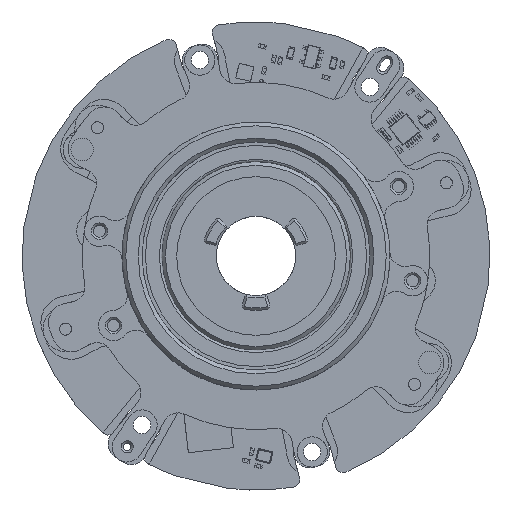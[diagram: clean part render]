
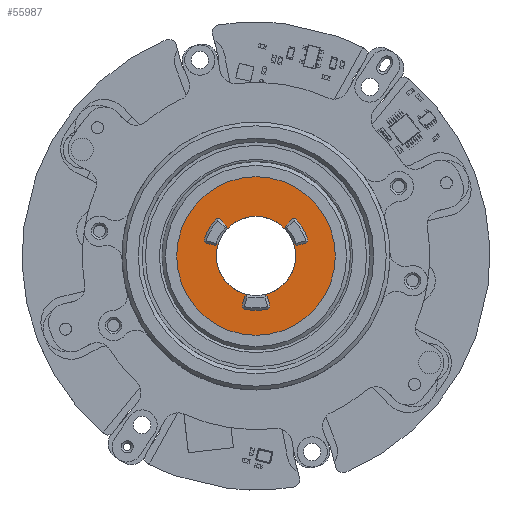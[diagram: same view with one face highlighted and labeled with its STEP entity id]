
A CAD part, left-side view. The second image highlights one B-rep face of the part: STEP entity #55987.
In plain terms, the highlighted planar face has unit normal (-1, 0, 0).
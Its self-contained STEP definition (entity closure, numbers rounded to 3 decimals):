
#14487=PLANE('',#140890);
#26861=LINE('',#191900,#41430);
#26863=LINE('',#191909,#41432);
#26870=LINE('',#191934,#41439);
#26873=LINE('',#191940,#41442);
#26875=LINE('',#191949,#41444);
#26879=LINE('',#191966,#41448);
#26883=LINE('',#191974,#41452);
#26886=LINE('',#191985,#41455);
#26892=LINE('',#192096,#41461);
#26895=LINE('',#192102,#41464);
#26897=LINE('',#192111,#41466);
#26902=LINE('',#192130,#41471);
#26905=LINE('',#192136,#41474);
#26908=LINE('',#192147,#41477);
#26911=LINE('',#192169,#41480);
#26915=LINE('',#192177,#41484);
#26918=LINE('',#192188,#41487);
#26923=LINE('',#192208,#41492);
#41430=VECTOR('',#152177,1.);
#41432=VECTOR('',#152181,1.);
#41439=VECTOR('',#152196,1.);
#41442=VECTOR('',#152201,1.);
#41444=VECTOR('',#152205,1.);
#41448=VECTOR('',#152217,1.);
#41452=VECTOR('',#152223,1.);
#41455=VECTOR('',#152228,1.);
#41461=VECTOR('',#152350,1.);
#41464=VECTOR('',#152355,1.);
#41466=VECTOR('',#152359,1.);
#41471=VECTOR('',#152372,1.);
#41474=VECTOR('',#152377,1.);
#41477=VECTOR('',#152382,1.);
#41480=VECTOR('',#152405,1.);
#41484=VECTOR('',#152411,1.);
#41487=VECTOR('',#152416,1.);
#41492=VECTOR('',#152429,1.);
#55987=ADVANCED_FACE('',(#63238,#63239),#14487,.T.);
#63238=FACE_BOUND('',#64033,.T.);
#63239=FACE_BOUND('',#64034,.T.);
#64033=EDGE_LOOP('',(#72501,#72502,#72503,#72504,#72505,#72506,#72507,#72508,
#72509,#72510,#72511,#72512,#72513,#72514,#72515,#72516,#72517,#72518,#72519,
#72520,#72521,#72522,#72523,#72524));
#64034=EDGE_LOOP('',(#72525));
#72501=ORIENTED_EDGE('',*,*,#119653,.T.);
#72502=ORIENTED_EDGE('',*,*,#119649,.F.);
#72503=ORIENTED_EDGE('',*,*,#119645,.T.);
#72504=ORIENTED_EDGE('',*,*,#119642,.F.);
#72505=ORIENTED_EDGE('',*,*,#119634,.T.);
#72506=ORIENTED_EDGE('',*,*,#119630,.F.);
#72507=ORIENTED_EDGE('',*,*,#119627,.T.);
#72508=ORIENTED_EDGE('',*,*,#119623,.F.);
#72509=ORIENTED_EDGE('',*,*,#119619,.T.);
#72510=ORIENTED_EDGE('',*,*,#119616,.F.);
#72511=ORIENTED_EDGE('',*,*,#119613,.T.);
#72512=ORIENTED_EDGE('',*,*,#119640,.F.);
#72513=ORIENTED_EDGE('',*,*,#119574,.T.);
#72514=ORIENTED_EDGE('',*,*,#119570,.F.);
#72515=ORIENTED_EDGE('',*,*,#119566,.T.);
#72516=ORIENTED_EDGE('',*,*,#119563,.F.);
#72517=ORIENTED_EDGE('',*,*,#119559,.T.);
#72518=ORIENTED_EDGE('',*,*,#119556,.F.);
#72519=ORIENTED_EDGE('',*,*,#119553,.T.);
#72520=ORIENTED_EDGE('',*,*,#119638,.F.);
#72521=ORIENTED_EDGE('',*,*,#119543,.T.);
#72522=ORIENTED_EDGE('',*,*,#119540,.F.);
#72523=ORIENTED_EDGE('',*,*,#119661,.T.);
#72524=ORIENTED_EDGE('',*,*,#119663,.F.);
#72525=ORIENTED_EDGE('',*,*,#119664,.T.);
#107615=VERTEX_POINT('',#191895);
#107617=VERTEX_POINT('',#191899);
#107620=VERTEX_POINT('',#191910);
#107626=VERTEX_POINT('',#191924);
#107629=VERTEX_POINT('',#191933);
#107631=VERTEX_POINT('',#191938);
#107634=VERTEX_POINT('',#191950);
#107636=VERTEX_POINT('',#191955);
#107639=VERTEX_POINT('',#191967);
#107641=VERTEX_POINT('',#191972);
#107643=VERTEX_POINT('',#191978);
#107684=VERTEX_POINT('',#192086);
#107687=VERTEX_POINT('',#192095);
#107689=VERTEX_POINT('',#192100);
#107692=VERTEX_POINT('',#192112);
#107694=VERTEX_POINT('',#192117);
#107696=VERTEX_POINT('',#192123);
#107699=VERTEX_POINT('',#192134);
#107701=VERTEX_POINT('',#192140);
#107705=VERTEX_POINT('',#192154);
#107708=VERTEX_POINT('',#192170);
#107710=VERTEX_POINT('',#192175);
#107712=VERTEX_POINT('',#192181);
#107720=VERTEX_POINT('',#192207);
#107721=VERTEX_POINT('',#192214);
#119540=EDGE_CURVE('',#107617,#107615,#26861,.T.);
#119543=EDGE_CURVE('',#107620,#107615,#26863,.T.);
#119553=EDGE_CURVE('',#107626,#107629,#26870,.T.);
#119556=EDGE_CURVE('',#107626,#107631,#26873,.T.);
#119559=EDGE_CURVE('',#107634,#107631,#26875,.T.);
#119563=EDGE_CURVE('',#107634,#107636,#137170,.T.);
#119566=EDGE_CURVE('',#107639,#107636,#26879,.T.);
#119570=EDGE_CURVE('',#107639,#107641,#26883,.T.);
#119574=EDGE_CURVE('',#107643,#107641,#26886,.T.);
#119613=EDGE_CURVE('',#107684,#107687,#26892,.T.);
#119616=EDGE_CURVE('',#107684,#107689,#26895,.T.);
#119619=EDGE_CURVE('',#107692,#107689,#26897,.T.);
#119623=EDGE_CURVE('',#107692,#107694,#137204,.T.);
#119627=EDGE_CURVE('',#107696,#107694,#26902,.T.);
#119630=EDGE_CURVE('',#107696,#107699,#26905,.T.);
#119634=EDGE_CURVE('',#107701,#107699,#26908,.T.);
#119638=EDGE_CURVE('',#107620,#107629,#137207,.T.);
#119640=EDGE_CURVE('',#107643,#107687,#137209,.T.);
#119642=EDGE_CURVE('',#107701,#107705,#137211,.T.);
#119645=EDGE_CURVE('',#107708,#107705,#26911,.T.);
#119649=EDGE_CURVE('',#107708,#107710,#26915,.T.);
#119653=EDGE_CURVE('',#107712,#107710,#26918,.T.);
#119661=EDGE_CURVE('',#107617,#107720,#26923,.T.);
#119663=EDGE_CURVE('',#107712,#107720,#137215,.T.);
#119664=EDGE_CURVE('',#107721,#107721,#137216,.T.);
#137170=CIRCLE('',#140799,7.2);
#137204=CIRCLE('',#140865,7.2);
#137207=CIRCLE('',#140873,5.25);
#137209=CIRCLE('',#140875,5.25);
#137211=CIRCLE('',#140877,5.25);
#137215=CIRCLE('',#140887,7.2);
#137216=CIRCLE('',#140889,10.5);
#140799=AXIS2_PLACEMENT_3D('',#191957,#152212,#152213);
#140865=AXIS2_PLACEMENT_3D('',#192119,#152366,#152367);
#140873=AXIS2_PLACEMENT_3D('',#192156,#152392,#152393);
#140875=AXIS2_PLACEMENT_3D('',#192158,#152396,#152397);
#140877=AXIS2_PLACEMENT_3D('',#192160,#152400,#152401);
#140887=AXIS2_PLACEMENT_3D('',#192211,#152434,#152435);
#140889=AXIS2_PLACEMENT_3D('',#192213,#152438,#152439);
#140890=AXIS2_PLACEMENT_3D('',#192215,#152440,#152441);
#152177=DIRECTION('',(0.,0.267,0.964));
#152181=DIRECTION('',(0.,-0.857,-0.516));
#152196=DIRECTION('',(0.,0.875,0.484));
#152201=DIRECTION('',(0.,-0.968,0.25));
#152205=DIRECTION('',(0.,0.489,-0.872));
#152212=DIRECTION('',(-1.,0.,0.));
#152213=DIRECTION('',(0.,-0.956,0.292));
#152217=DIRECTION('',(0.,-1.,-0.013));
#152223=DIRECTION('',(0.,0.701,-0.713));
#152228=DIRECTION('',(0.,-0.018,1.));
#152350=DIRECTION('',(0.,-0.018,-1.));
#152355=DIRECTION('',(0.,0.701,0.713));
#152359=DIRECTION('',(0.,-1.,0.013));
#152366=DIRECTION('',(-1.,0.,0.));
#152367=DIRECTION('',(0.,0.731,0.682));
#152372=DIRECTION('',(0.,0.489,0.872));
#152377=DIRECTION('',(0.,-0.968,-0.25));
#152382=DIRECTION('',(0.,0.875,-0.484));
#152392=DIRECTION('',(-1.,0.,0.));
#152393=DIRECTION('',(0.,-0.215,-0.977));
#152396=DIRECTION('',(-1.,0.,0.));
#152397=DIRECTION('',(0.,0.,1.));
#152400=DIRECTION('',(-1.,0.,0.));
#152401=DIRECTION('',(0.,0.953,0.302));
#152405=DIRECTION('',(0.,-0.857,0.516));
#152411=DIRECTION('',(0.,0.267,-0.964));
#152416=DIRECTION('',(0.,0.511,0.859));
#152429=DIRECTION('',(0.,0.511,-0.859));
#152434=DIRECTION('',(-1.,0.,0.));
#152435=DIRECTION('',(0.,0.225,-0.974));
#152438=DIRECTION('',(-1.,0.,0.));
#152439=DIRECTION('',(0.,0.,-1.));
#152440=DIRECTION('',(-1.,0.,0.));
#152441=DIRECTION('',(0.,0.,-1.));
#191895=CARTESIAN_POINT('',(72.165,-1.481,-5.34));
#191899=CARTESIAN_POINT('',(72.165,-1.842,-6.643));
#191900=CARTESIAN_POINT('',(72.165,-1.842,-6.643));
#191909=CARTESIAN_POINT('',(72.165,-1.127,-5.128));
#191910=CARTESIAN_POINT('',(72.165,-1.127,-5.128));
#191924=CARTESIAN_POINT('',(72.165,-5.365,1.388));
#191933=CARTESIAN_POINT('',(72.165,-5.004,1.587));
#191934=CARTESIAN_POINT('',(72.165,-5.365,1.388));
#191938=CARTESIAN_POINT('',(72.165,-6.674,1.726));
#191940=CARTESIAN_POINT('',(72.165,-5.365,1.388));
#191949=CARTESIAN_POINT('',(72.165,-6.886,2.104));
#191950=CARTESIAN_POINT('',(72.165,-6.886,2.104));
#191955=CARTESIAN_POINT('',(72.165,-5.265,4.911));
#191957=CARTESIAN_POINT('',(72.165,0.,0.));
#191966=CARTESIAN_POINT('',(72.165,-4.832,4.917));
#191967=CARTESIAN_POINT('',(72.165,-4.832,4.917));
#191972=CARTESIAN_POINT('',(72.165,-3.884,3.953));
#191974=CARTESIAN_POINT('',(72.165,-4.832,4.917));
#191978=CARTESIAN_POINT('',(72.165,-3.877,3.54));
#191985=CARTESIAN_POINT('',(72.165,-3.877,3.54));
#192086=CARTESIAN_POINT('',(72.165,3.884,3.953));
#192095=CARTESIAN_POINT('',(72.165,3.877,3.54));
#192096=CARTESIAN_POINT('',(72.165,3.884,3.953));
#192100=CARTESIAN_POINT('',(72.165,4.832,4.917));
#192102=CARTESIAN_POINT('',(72.165,3.884,3.953));
#192111=CARTESIAN_POINT('',(72.165,5.265,4.911));
#192112=CARTESIAN_POINT('',(72.165,5.265,4.911));
#192117=CARTESIAN_POINT('',(72.165,6.886,2.104));
#192119=CARTESIAN_POINT('',(72.165,0.,0.));
#192123=CARTESIAN_POINT('',(72.165,6.674,1.726));
#192130=CARTESIAN_POINT('',(72.165,6.674,1.726));
#192134=CARTESIAN_POINT('',(72.165,5.365,1.388));
#192136=CARTESIAN_POINT('',(72.165,6.674,1.726));
#192140=CARTESIAN_POINT('',(72.165,5.004,1.587));
#192147=CARTESIAN_POINT('',(72.165,5.004,1.587));
#192154=CARTESIAN_POINT('',(72.165,1.127,-5.128));
#192156=CARTESIAN_POINT('',(72.165,0.,0.));
#192158=CARTESIAN_POINT('',(72.165,0.,0.));
#192160=CARTESIAN_POINT('',(72.165,0.,0.));
#192169=CARTESIAN_POINT('',(72.165,1.481,-5.34));
#192170=CARTESIAN_POINT('',(72.165,1.481,-5.34));
#192175=CARTESIAN_POINT('',(72.165,1.842,-6.643));
#192177=CARTESIAN_POINT('',(72.165,1.481,-5.34));
#192181=CARTESIAN_POINT('',(72.165,1.621,-7.015));
#192188=CARTESIAN_POINT('',(72.165,1.621,-7.015));
#192207=CARTESIAN_POINT('',(72.165,-1.621,-7.015));
#192208=CARTESIAN_POINT('',(72.165,-1.842,-6.643));
#192211=CARTESIAN_POINT('',(72.165,0.,0.));
#192213=CARTESIAN_POINT('',(72.165,0.,0.));
#192214=CARTESIAN_POINT('',(72.165,0.,-10.5));
#192215=CARTESIAN_POINT('',(72.165,0.,0.));
